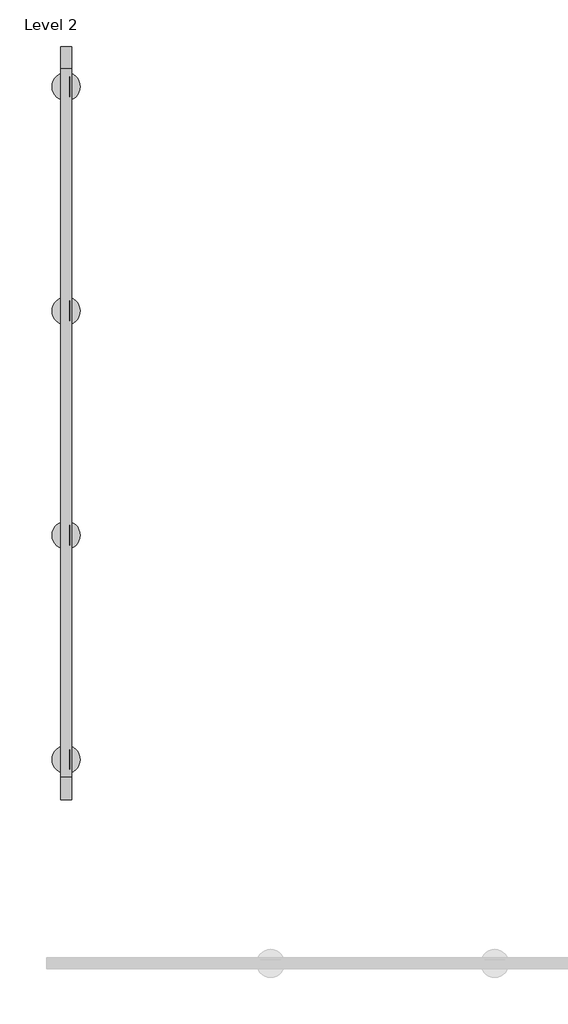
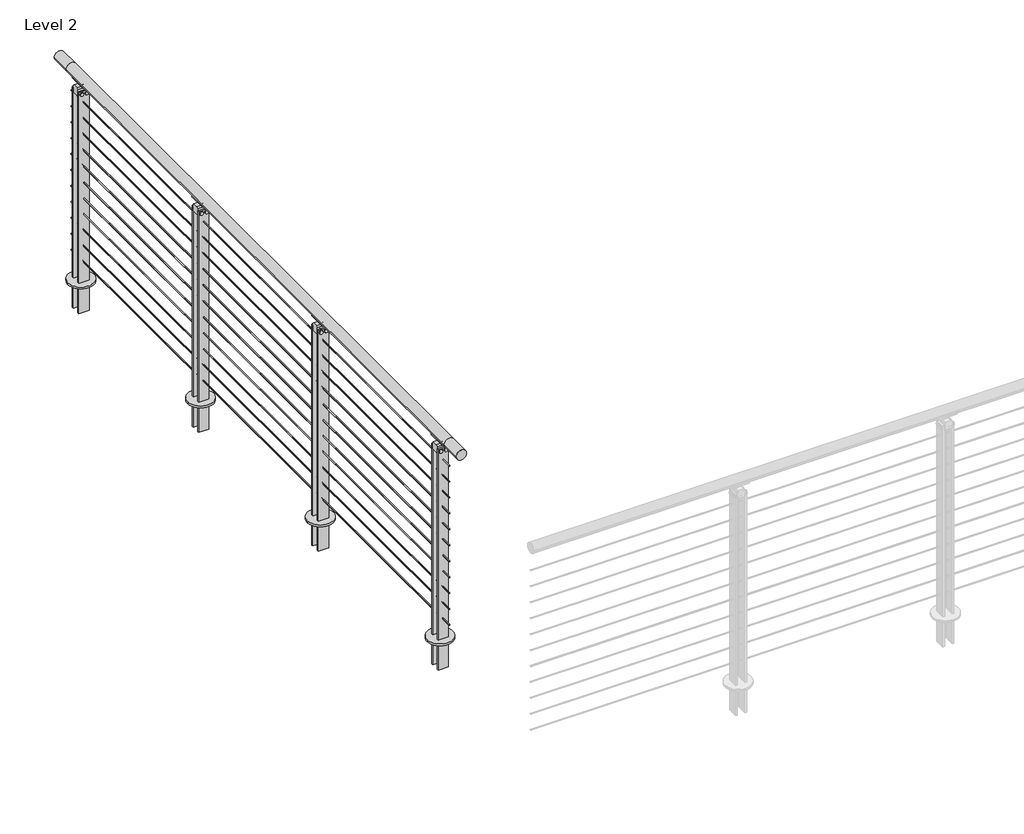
# One storey, part 29 of 31: 1 railing.
"""IFC4 building model written with IfcOpenShell, lengths in millimetres."""

from ifc_helpers import new_model, si_unit, point, frame, frame_2d, origin, place, context, project, spatial, polyline, circle_curve, trimmed, segment, composite_curve, outline, extrude, element, save
from ifc_brep_helpers import plane_surface, cylinder_surface, revolved_surface, advanced_brep

model = new_model("IFC4")

# Units and contexts
model_context = context("Model", 3, world=origin())
ifc_project = project(units=[si_unit("LENGTHUNIT", "METRE", prefix="MILLI")], contexts=[model_context])

# Site, building, storey
site = spatial("IfcSite", under=ifc_project)
building = spatial("IfcBuilding", under=site)
storey = spatial("IfcBuildingStorey", under=building, Name="Level 2", Elevation=3048.0)

# Railing
placement = place(None, origin())
element("IfcRailing", 1, ObjectType="VIVA-BLADE-Cable-Core Mount-Straight", at=placement, inside=storey, context=model_context, shape_type="SolidModel", body=[
    advanced_brep(
    [(65907.3310647, -51362.5040223, 4102.1), (65856.5310647, -51362.5040223, 4102.1), (65907.3310647, -51260.9040223, 4102.1), (65856.5310647, -51260.9040223, 4102.1), (65907.3310647, -48053.4426165, 4102.1), (65856.5310647, -48053.4426165, 4102.1), (65907.3310647, -47951.8426165, 4102.1), (65856.5310647, -47951.8426165, 4102.1)],
    [
        (0, 1, circle_curve(frame((65881.9310647, -51362.5040223, 4102.1), z_axis=(0.0, -1.0, 0.0), x_axis=(-1.0, 0.0, 0.0)), 25.4)),
        (1, 0, circle_curve(frame((65881.9310647, -51362.5040223, 4102.1), z_axis=(0.0, -1.0, 0.0), x_axis=(-1.0, 0.0, 0.0)), 25.4)),
        (0, 2),
        (2, 3, circle_curve(frame((65881.9310647, -51260.9040223, 4102.1), z_axis=(0.0, -1.0, 0.0), x_axis=(-1.0, 0.0, 0.0)), 25.4)),
        (3, 1),
        (3, 2, circle_curve(frame((65881.9310647, -51260.9040223, 4102.1), z_axis=(0.0, -1.0, 0.0), x_axis=(-1.0, 0.0, 0.0)), 25.4)),
        (2, 4),
        (4, 5, circle_curve(frame((65881.9310647, -48053.4426165, 4102.1), z_axis=(0.0, -1.0, 0.0), x_axis=(-1.0, 0.0, 0.0)), 25.4)),
        (5, 3),
        (5, 4, circle_curve(frame((65881.9310647, -48053.4426165, 4102.1), z_axis=(0.0, -1.0, 0.0), x_axis=(-1.0, 0.0, 0.0)), 25.4)),
        (6, 7, circle_curve(frame((65881.9310647, -47951.8426165, 4102.1), z_axis=(0.0, 1.0, 0.0), x_axis=(-1.0, 0.0, 0.0)), 25.4)),
        (7, 6, circle_curve(frame((65881.9310647, -47951.8426165, 4102.1), z_axis=(0.0, 1.0, 0.0), x_axis=(-1.0, 0.0, 0.0)), 25.4)),
        (4, 6),
        (7, 5),
    ],
    [
        plane_surface(frame((65881.9310647, -51362.5040223, 4127.5), z_axis=(0.0, -1.0, 0.0), x_axis=(0.0, 0.0, 1.0))),
        cylinder_surface(frame((65881.9310647, -51362.5040223, 4102.1), z_axis=(0.0, -1.0, 0.0), x_axis=(-1.0, 0.0, 0.0)), 25.4),
        cylinder_surface(frame((65881.9310647, -51260.9040223, 4102.1), z_axis=(0.0, -1.0, 0.0), x_axis=(-1.0, 0.0, 0.0)), 25.4),
        plane_surface(frame((65881.9310647, -47951.8426165, 4127.5), z_axis=(0.0, 1.0, 0.0), x_axis=(0.0, 0.0, 1.0))),
        cylinder_surface(frame((65881.9310647, -48053.4426165, 4102.1), z_axis=(0.0, -1.0, 0.0), x_axis=(-1.0, 0.0, 0.0)), 25.4),
    ],
    [
        (0, [[1, 2]]),
        (1, [[-1, 3, 4, 5]]),
        (1, [[-2, -5, 6, -3]]),
        (2, [[-4, 7, 8, 9]]),
        (2, [[-6, -9, 10, -7]]),
        (3, [[11, 12]]),
        (4, [[-8, 13, -12, 14]]),
        (4, [[-10, -14, -11, -13]]),
    ],
),
    extrude(outline(composite_curve([segment(trimmed(circle_curve(frame_2d((3985.4124, 65881.9310647)), 2.3876), [point((3985.4124, 65884.3186647))], [point((3985.4124, 65879.5434647))], False, "CARTESIAN"), True, "CONTINUOUS"), segment(trimmed(circle_curve(frame_2d((3985.4124, 65881.9310647)), 2.3876), [point((3985.4124, 65879.5434647))], [point((3985.4124, 65884.3186647))], False, "CARTESIAN"), True, "CONTINUOUS")], self_intersect=False)), frame((0.0, -51260.9040223, 0.0), z_axis=(0.0, 1.0, 0.0), x_axis=(0.0, 0.0, 1.0)), (0.0, 0.0, 1.0), 3207.4614057),
    extrude(outline(composite_curve([segment(trimmed(circle_curve(frame_2d((3902.8624, 65881.9310647)), 2.3876), [point((3902.8624, 65884.3186647))], [point((3902.8624, 65879.5434647))], False, "CARTESIAN"), True, "CONTINUOUS"), segment(trimmed(circle_curve(frame_2d((3902.8624, 65881.9310647)), 2.3876), [point((3902.8624, 65879.5434647))], [point((3902.8624, 65884.3186647))], False, "CARTESIAN"), True, "CONTINUOUS")], self_intersect=False)), frame((0.0, -51260.9040223, 0.0), z_axis=(0.0, 1.0, 0.0), x_axis=(0.0, 0.0, 1.0)), (0.0, 0.0, 1.0), 3207.4614057),
    extrude(outline(composite_curve([segment(trimmed(circle_curve(frame_2d((3820.3124, 65881.9310647)), 2.3876), [point((3820.3124, 65884.3186647))], [point((3820.3124, 65879.5434647))], False, "CARTESIAN"), True, "CONTINUOUS"), segment(trimmed(circle_curve(frame_2d((3820.3124, 65881.9310647)), 2.3876), [point((3820.3124, 65879.5434647))], [point((3820.3124, 65884.3186647))], False, "CARTESIAN"), True, "CONTINUOUS")], self_intersect=False)), frame((0.0, -51260.9040223, 0.0), z_axis=(0.0, 1.0, 0.0), x_axis=(0.0, 0.0, 1.0)), (0.0, 0.0, 1.0), 3207.4614057),
    extrude(outline(composite_curve([segment(trimmed(circle_curve(frame_2d((3737.7624, 65881.9310647)), 2.3876), [point((3737.7624, 65884.3186647))], [point((3737.7624, 65879.5434647))], False, "CARTESIAN"), True, "CONTINUOUS"), segment(trimmed(circle_curve(frame_2d((3737.7624, 65881.9310647)), 2.3876), [point((3737.7624, 65879.5434647))], [point((3737.7624, 65884.3186647))], False, "CARTESIAN"), True, "CONTINUOUS")], self_intersect=False)), frame((0.0, -51260.9040223, 0.0), z_axis=(0.0, 1.0, 0.0), x_axis=(0.0, 0.0, 1.0)), (0.0, 0.0, 1.0), 3207.4614057),
    extrude(outline(composite_curve([segment(trimmed(circle_curve(frame_2d((3655.2124, 65881.9310647)), 2.3876), [point((3655.2124, 65884.3186647))], [point((3655.2124, 65879.5434647))], False, "CARTESIAN"), True, "CONTINUOUS"), segment(trimmed(circle_curve(frame_2d((3655.2124, 65881.9310647)), 2.3876), [point((3655.2124, 65879.5434647))], [point((3655.2124, 65884.3186647))], False, "CARTESIAN"), True, "CONTINUOUS")], self_intersect=False)), frame((0.0, -51260.9040223, 0.0), z_axis=(0.0, 1.0, 0.0), x_axis=(0.0, 0.0, 1.0)), (0.0, 0.0, 1.0), 3207.4614057),
    extrude(outline(composite_curve([segment(trimmed(circle_curve(frame_2d((3572.6624, 65881.9310647)), 2.3876), [point((3572.6624, 65884.3186647))], [point((3572.6624, 65879.5434647))], False, "CARTESIAN"), True, "CONTINUOUS"), segment(trimmed(circle_curve(frame_2d((3572.6624, 65881.9310647)), 2.3876), [point((3572.6624, 65879.5434647))], [point((3572.6624, 65884.3186647))], False, "CARTESIAN"), True, "CONTINUOUS")], self_intersect=False)), frame((0.0, -51260.9040223, 0.0), z_axis=(0.0, 1.0, 0.0), x_axis=(0.0, 0.0, 1.0)), (0.0, 0.0, 1.0), 3207.4614057),
    extrude(outline(composite_curve([segment(trimmed(circle_curve(frame_2d((3490.1124, 65881.9310647)), 2.3876), [point((3490.1124, 65884.3186647))], [point((3490.1124, 65879.5434647))], False, "CARTESIAN"), True, "CONTINUOUS"), segment(trimmed(circle_curve(frame_2d((3490.1124, 65881.9310647)), 2.3876), [point((3490.1124, 65879.5434647))], [point((3490.1124, 65884.3186647))], False, "CARTESIAN"), True, "CONTINUOUS")], self_intersect=False)), frame((0.0, -51260.9040223, 0.0), z_axis=(0.0, 1.0, 0.0), x_axis=(0.0, 0.0, 1.0)), (0.0, 0.0, 1.0), 3207.4614057),
    extrude(outline(composite_curve([segment(trimmed(circle_curve(frame_2d((3407.5624, 65881.9310647)), 2.3876), [point((3407.5624, 65884.3186647))], [point((3407.5624, 65879.5434647))], False, "CARTESIAN"), True, "CONTINUOUS"), segment(trimmed(circle_curve(frame_2d((3407.5624, 65881.9310647)), 2.3876), [point((3407.5624, 65879.5434647))], [point((3407.5624, 65884.3186647))], False, "CARTESIAN"), True, "CONTINUOUS")], self_intersect=False)), frame((0.0, -51260.9040223, 0.0), z_axis=(0.0, 1.0, 0.0), x_axis=(0.0, 0.0, 1.0)), (0.0, 0.0, 1.0), 3207.4614057),
    extrude(outline(composite_curve([segment(trimmed(circle_curve(frame_2d((3325.0124, 65881.9310647)), 2.3876), [point((3325.0124, 65884.3186647))], [point((3325.0124, 65879.5434647))], False, "CARTESIAN"), True, "CONTINUOUS"), segment(trimmed(circle_curve(frame_2d((3325.0124, 65881.9310647)), 2.3876), [point((3325.0124, 65879.5434647))], [point((3325.0124, 65884.3186647))], False, "CARTESIAN"), True, "CONTINUOUS")], self_intersect=False)), frame((0.0, -51260.9040223, 0.0), z_axis=(0.0, 1.0, 0.0), x_axis=(0.0, 0.0, 1.0)), (0.0, 0.0, 1.0), 3207.4614057),
    extrude(outline(composite_curve([segment(trimmed(circle_curve(frame_2d((3242.4624, 65881.9310647)), 2.3876), [point((3242.4624, 65884.3186647))], [point((3242.4624, 65879.5434647))], False, "CARTESIAN"), True, "CONTINUOUS"), segment(trimmed(circle_curve(frame_2d((3242.4624, 65881.9310647)), 2.3876), [point((3242.4624, 65879.5434647))], [point((3242.4624, 65884.3186647))], False, "CARTESIAN"), True, "CONTINUOUS")], self_intersect=False)), frame((0.0, -51260.9040223, 0.0), z_axis=(0.0, 1.0, 0.0), x_axis=(0.0, 0.0, 1.0)), (0.0, 0.0, 1.0), 3207.4614057),
    extrude(outline(composite_curve([segment(trimmed(circle_curve(frame_2d((3159.9124, 65881.9310647)), 2.3876), [point((3159.9124, 65884.3186647))], [point((3159.9124, 65879.5434647))], False, "CARTESIAN"), True, "CONTINUOUS"), segment(trimmed(circle_curve(frame_2d((3159.9124, 65881.9310647)), 2.3876), [point((3159.9124, 65879.5434647))], [point((3159.9124, 65884.3186647))], False, "CARTESIAN"), True, "CONTINUOUS")], self_intersect=False)), frame((0.0, -51260.9040223, 0.0), z_axis=(0.0, 1.0, 0.0), x_axis=(0.0, 0.0, 1.0)), (0.0, 0.0, 1.0), 3207.4614057),
    extrude(outline(polyline([(65907.3308614, -48160.2481551), (65856.5285368, -48160.2481551), (65856.5285368, -48152.2233194), (65907.3308614, -48152.2233194), (65907.3308614, -48160.2481551)])), frame((0.0, 0.0, 2901.95), z_axis=(0.0, 0.0, 1.0), x_axis=(1.0, 0.0, 0.0)), (0.0, 0.0, 1.0), 146.05),
    extrude(outline(polyline([(65907.3308614, -48114.1233574), (65856.5285368, -48114.1233574), (65856.5285368, -48106.1223574), (65907.3308614, -48106.1223574), (65907.3308614, -48114.1233574)])), frame((0.0, 0.0, 2901.95), z_axis=(0.0, 0.0, 1.0), x_axis=(1.0, 0.0, 0.0)), (0.0, 0.0, 1.0), 146.05),
    extrude(outline(composite_curve([segment(trimmed(circle_curve(frame_2d((65881.9310647, -48133.1852563)), 63.4988059), [point((65818.4322588, -48133.1852563))], [point((65945.4298707, -48133.1852563))], False, "CARTESIAN"), True, "CONTINUOUS"), segment(trimmed(circle_curve(frame_2d((65881.9310647, -48133.1852563)), 63.4988059), [point((65945.4298707, -48133.1852563))], [point((65818.4322588, -48133.1852563))], False, "CARTESIAN"), True, "CONTINUOUS")], self_intersect=False)), frame((0.0, 0.0, 3048.0), z_axis=(0.0, 0.0, 1.0), x_axis=(1.0, 0.0, 0.0)), (0.0, 0.0, 1.0), 9.525),
    advanced_brep(
    [(65894.6911884, -48087.9359194, 4080.0967655), (65898.5270858, -48087.9359194, 4075.707533), (65867.0101935, -48087.9359194, 4075.1267745), (65869.8191238, -48087.9359194, 4079.9535285), (65894.6911884, -48178.4107194, 4080.0967655), (65869.7321517, -48178.4107194, 4080.0018447), (65866.8964001, -48178.4107194, 4075.1893964), (65898.5270858, -48178.4107194, 4075.707533)],
    [
        (0, 1, circle_curve(frame((65896.238746, -48087.9359194, 4077.5784521), z_axis=(0.0, 1.0, 0.0), x_axis=(1.0, 0.0, 0.0)), 2.9558141)),
        (1, 2, circle_curve(frame((65882.2608486, -48087.9359194, 4102.9742164), z_axis=(0.0, 1.0, 0.0), x_axis=(1.0, 0.0, 0.0)), 31.75)),
        (2, 3, circle_curve(frame((65868.4874986, -48087.9359194, 4077.4993599), z_axis=(0.0, 1.0, 0.0), x_axis=(1.0, 0.0, 0.0)), 2.7949225)),
        (3, 0, circle_curve(frame((65882.1273855, -48087.9359194, 4102.2115898), z_axis=(0.0, -1.0, 0.0), x_axis=(1.0, 0.0, 0.0)), 25.4345159)),
        (4, 5, circle_curve(frame((65882.1273855, -48178.4107194, 4102.2115898), z_axis=(0.0, 1.0, 0.0), x_axis=(1.0, 0.0, 0.0)), 25.4345159)),
        (5, 6, circle_curve(frame((65868.4874986, -48178.4107194, 4077.4993599), z_axis=(0.0, -1.0, 0.0), x_axis=(1.0, 0.0, 0.0)), 2.7949225)),
        (6, 7, circle_curve(frame((65882.2608486, -48178.4107194, 4102.9742164), z_axis=(0.0, -1.0, 0.0), x_axis=(1.0, 0.0, 0.0)), 31.75)),
        (7, 4, circle_curve(frame((65896.238746, -48178.4107194, 4077.5784521), z_axis=(0.0, -1.0, 0.0), x_axis=(1.0, 0.0, 0.0)), 2.9558141)),
        (3, 5),
        (4, 0),
        (2, 6),
        (1, 7),
    ],
    [
        plane_surface(frame((65907.5619013, -48087.9359194, 4102.2115898), z_axis=(0.0, 1.0, 0.0), x_axis=(0.0, 0.0, -1.0))),
        plane_surface(frame((65907.5619013, -48178.4107194, 4102.2115898), z_axis=(0.0, -1.0, 0.0), x_axis=(0.0, 0.0, 1.0))),
        revolved_surface(polyline([(65907.5619014, -48178.4107194, 4102.2115898), (65907.5619014, -48087.9359194, 4102.2115898)]), (65882.1273855, -48178.4107194, 4102.2115898), (0.0, -1.0, 0.0)),
        cylinder_surface(frame((65868.4874986, -48178.4107194, 4077.4993599), z_axis=(0.0, 1.0, 0.0), x_axis=(1.0, 0.0, 0.0)), 2.7949225),
        cylinder_surface(frame((65882.2608486, -48178.4107194, 4102.9742164), z_axis=(0.0, 1.0, 0.0), x_axis=(1.0, 0.0, 0.0)), 31.75),
        cylinder_surface(frame((65896.238746, -48178.4107194, 4077.5784521), z_axis=(0.0, 1.0, 0.0), x_axis=(1.0, 0.0, 0.0)), 2.9558141),
    ],
    [
        (0, [[1, 2, 3, 4]]),
        (1, [[5, 6, 7, 8]]),
        (2, [[9, -5, 10, -4]]),
        (3, [[11, -6, -9, -3]]),
        (4, [[12, -7, -11, -2]]),
        (5, [[-10, -8, -12, -1]]),
    ],
),
    extrude(outline(composite_curve([segment(polyline([(-48120.4733194, 4062.4125), (-48145.8733194, 4062.4125)]), True, "CONTINUOUS"), segment(trimmed(circle_curve(frame_2d((-48160.2412343, 4062.4125)), 14.3679149), [point((-48145.8733194, 4062.4125))], [point((-48160.2412343, 4076.7804149))], True, "CARTESIAN"), True, "CONTINUOUS"), segment(polyline([(-48160.2412343, 4076.7804149), (-48106.1054045, 4076.7804149)]), True, "CONTINUOUS"), segment(trimmed(circle_curve(frame_2d((-48106.1054045, 4062.4125)), 14.3679149), [point((-48106.1054045, 4076.7804149))], [point((-48120.4733194, 4062.4125))], True, "CARTESIAN"), True, "CONTINUOUS")], self_intersect=False)), frame((65879.3910647, 0.0, 0.0), z_axis=(1.0, 0.0, 0.0), x_axis=(0.0, 1.0, 0.0)), (0.0, 0.0, 1.0), 5.08),
    extrude(outline(polyline([(65907.3308614, -48160.2481551), (65856.5285368, -48160.2481551), (65856.5285368, -48152.2233194), (65907.3308614, -48152.2233194), (65907.3308614, -48160.2481551)])), frame((0.0, 0.0, 3048.0), z_axis=(0.0, 0.0, 1.0), x_axis=(1.0, 0.0, 0.0)), (0.0, 0.0, 1.0), 996.95),
    extrude(outline(composite_curve([segment(trimmed(circle_curve(frame_2d((4034.0416929, 65869.2285878)), 8.89), [point((4034.0416929, 65860.3385878))], [point((4034.0416929, 65878.1185878))], False, "CARTESIAN"), True, "CONTINUOUS"), segment(trimmed(circle_curve(frame_2d((4034.0416929, 65869.2285878)), 8.89), [point((4034.0416929, 65878.1185878))], [point((4034.0416929, 65860.3385878))], False, "CARTESIAN"), True, "CONTINUOUS")], self_intersect=False)), frame((0.0, -48164.9233194, 0.0), z_axis=(0.0, 1.0, 0.0), x_axis=(0.0, 0.0, 1.0)), (0.0, 0.0, 1.0), 63.4880631),
    extrude(outline(composite_curve([segment(trimmed(circle_curve(frame_2d((4034.0416929, 65894.6284858)), 8.89), [point((4034.0416929, 65885.7384858))], [point((4034.0416929, 65903.5184858))], False, "CARTESIAN"), True, "CONTINUOUS"), segment(trimmed(circle_curve(frame_2d((4034.0416929, 65894.6284858)), 8.89), [point((4034.0416929, 65903.5184858))], [point((4034.0416929, 65885.7384858))], False, "CARTESIAN"), True, "CONTINUOUS")], self_intersect=False)), frame((0.0, -48164.9233194, 0.0), z_axis=(0.0, 1.0, 0.0), x_axis=(0.0, 0.0, 1.0)), (0.0, 0.0, 1.0), 63.4880631),
    extrude(outline(polyline([(-48152.2233194, 4022.7123), (-48152.2233194, 4056.0625), (-48145.8733194, 4062.4125), (-48120.4733194, 4062.4125), (-48114.1233194, 4056.0625), (-48114.1233194, 4022.7123), (-48152.2233194, 4022.7123)])), frame((65856.5285368, 0.0, 0.0), z_axis=(1.0, 0.0, 0.0), x_axis=(0.0, 1.0, 0.0)), (0.0, 0.0, 1.0), 50.8025279),
    extrude(outline(polyline([(65907.3308614, -48114.1233574), (65856.5285368, -48114.1233574), (65856.5285368, -48106.1223574), (65907.3308614, -48106.1223574), (65907.3308614, -48114.1233574)])), frame((0.0, 0.0, 3048.0), z_axis=(0.0, 0.0, 1.0), x_axis=(1.0, 0.0, 0.0)), (0.0, 0.0, 1.0), 996.95),
    extrude(outline(polyline([(65907.3308614, -49176.2481551), (65856.5285368, -49176.2481551), (65856.5285368, -49168.2233194), (65907.3308614, -49168.2233194), (65907.3308614, -49176.2481551)])), frame((0.0, 0.0, 2901.95), z_axis=(0.0, 0.0, 1.0), x_axis=(1.0, 0.0, 0.0)), (0.0, 0.0, 1.0), 146.05),
    extrude(outline(polyline([(65907.3308614, -49130.1233574), (65856.5285368, -49130.1233574), (65856.5285368, -49122.1223574), (65907.3308614, -49122.1223574), (65907.3308614, -49130.1233574)])), frame((0.0, 0.0, 2901.95), z_axis=(0.0, 0.0, 1.0), x_axis=(1.0, 0.0, 0.0)), (0.0, 0.0, 1.0), 146.05),
    extrude(outline(composite_curve([segment(trimmed(circle_curve(frame_2d((65881.9310647, -49149.1852563)), 63.4988059), [point((65818.4322588, -49149.1852563))], [point((65945.4298707, -49149.1852563))], False, "CARTESIAN"), True, "CONTINUOUS"), segment(trimmed(circle_curve(frame_2d((65881.9310647, -49149.1852563)), 63.4988059), [point((65945.4298707, -49149.1852563))], [point((65818.4322588, -49149.1852563))], False, "CARTESIAN"), True, "CONTINUOUS")], self_intersect=False)), frame((0.0, 0.0, 3048.0), z_axis=(0.0, 0.0, 1.0), x_axis=(1.0, 0.0, 0.0)), (0.0, 0.0, 1.0), 9.525),
    advanced_brep(
    [(65894.6911884, -49103.9359194, 4080.0967655), (65898.5270858, -49103.9359194, 4075.707533), (65867.0101935, -49103.9359194, 4075.1267745), (65869.8191238, -49103.9359194, 4079.9535285), (65894.6911884, -49194.4107194, 4080.0967655), (65869.7321517, -49194.4107194, 4080.0018447), (65866.8964001, -49194.4107194, 4075.1893964), (65898.5270858, -49194.4107194, 4075.707533)],
    [
        (0, 1, circle_curve(frame((65896.238746, -49103.9359194, 4077.5784521), z_axis=(0.0, 1.0, 0.0), x_axis=(1.0, 0.0, 0.0)), 2.9558141)),
        (1, 2, circle_curve(frame((65882.2608486, -49103.9359194, 4102.9742164), z_axis=(0.0, 1.0, 0.0), x_axis=(1.0, 0.0, 0.0)), 31.75)),
        (2, 3, circle_curve(frame((65868.4874986, -49103.9359194, 4077.4993599), z_axis=(0.0, 1.0, 0.0), x_axis=(1.0, 0.0, 0.0)), 2.7949225)),
        (3, 0, circle_curve(frame((65882.1273855, -49103.9359194, 4102.2115898), z_axis=(0.0, -1.0, 0.0), x_axis=(1.0, 0.0, 0.0)), 25.4345159)),
        (4, 5, circle_curve(frame((65882.1273855, -49194.4107194, 4102.2115898), z_axis=(0.0, 1.0, 0.0), x_axis=(1.0, 0.0, 0.0)), 25.4345159)),
        (5, 6, circle_curve(frame((65868.4874986, -49194.4107194, 4077.4993599), z_axis=(0.0, -1.0, 0.0), x_axis=(1.0, 0.0, 0.0)), 2.7949225)),
        (6, 7, circle_curve(frame((65882.2608486, -49194.4107194, 4102.9742164), z_axis=(0.0, -1.0, 0.0), x_axis=(1.0, 0.0, 0.0)), 31.75)),
        (7, 4, circle_curve(frame((65896.238746, -49194.4107194, 4077.5784521), z_axis=(0.0, -1.0, 0.0), x_axis=(1.0, 0.0, 0.0)), 2.9558141)),
        (3, 5),
        (4, 0),
        (2, 6),
        (1, 7),
    ],
    [
        plane_surface(frame((65907.5619013, -49103.9359194, 4102.2115898), z_axis=(0.0, 1.0, 0.0), x_axis=(0.0, 0.0, -1.0))),
        plane_surface(frame((65907.5619013, -49194.4107194, 4102.2115898), z_axis=(0.0, -1.0, 0.0), x_axis=(0.0, 0.0, 1.0))),
        revolved_surface(polyline([(65907.5619014, -49194.4107194, 4102.2115898), (65907.5619014, -49103.9359194, 4102.2115898)]), (65882.1273855, -49194.4107194, 4102.2115898), (0.0, -1.0, 0.0)),
        cylinder_surface(frame((65868.4874986, -49194.4107194, 4077.4993599), z_axis=(0.0, 1.0, 0.0), x_axis=(1.0, 0.0, 0.0)), 2.7949225),
        cylinder_surface(frame((65882.2608486, -49194.4107194, 4102.9742164), z_axis=(0.0, 1.0, 0.0), x_axis=(1.0, 0.0, 0.0)), 31.75),
        cylinder_surface(frame((65896.238746, -49194.4107194, 4077.5784521), z_axis=(0.0, 1.0, 0.0), x_axis=(1.0, 0.0, 0.0)), 2.9558141),
    ],
    [
        (0, [[1, 2, 3, 4]]),
        (1, [[5, 6, 7, 8]]),
        (2, [[9, -5, 10, -4]]),
        (3, [[11, -6, -9, -3]]),
        (4, [[12, -7, -11, -2]]),
        (5, [[-10, -8, -12, -1]]),
    ],
),
    extrude(outline(composite_curve([segment(polyline([(-49136.4733194, 4062.4125), (-49161.8733194, 4062.4125)]), True, "CONTINUOUS"), segment(trimmed(circle_curve(frame_2d((-49176.2412343, 4062.4125)), 14.3679149), [point((-49161.8733194, 4062.4125))], [point((-49176.2412343, 4076.7804149))], True, "CARTESIAN"), True, "CONTINUOUS"), segment(polyline([(-49176.2412343, 4076.7804149), (-49122.1054045, 4076.7804149)]), True, "CONTINUOUS"), segment(trimmed(circle_curve(frame_2d((-49122.1054045, 4062.4125)), 14.3679149), [point((-49122.1054045, 4076.7804149))], [point((-49136.4733194, 4062.4125))], True, "CARTESIAN"), True, "CONTINUOUS")], self_intersect=False)), frame((65879.3910647, 0.0, 0.0), z_axis=(1.0, 0.0, 0.0), x_axis=(0.0, 1.0, 0.0)), (0.0, 0.0, 1.0), 5.08),
    extrude(outline(polyline([(65907.3308614, -49176.2481551), (65856.5285368, -49176.2481551), (65856.5285368, -49168.2233194), (65907.3308614, -49168.2233194), (65907.3308614, -49176.2481551)])), frame((0.0, 0.0, 3048.0), z_axis=(0.0, 0.0, 1.0), x_axis=(1.0, 0.0, 0.0)), (0.0, 0.0, 1.0), 996.95),
    extrude(outline(composite_curve([segment(trimmed(circle_curve(frame_2d((4034.0416929, 65869.2285878)), 8.89), [point((4034.0416929, 65860.3385878))], [point((4034.0416929, 65878.1185878))], False, "CARTESIAN"), True, "CONTINUOUS"), segment(trimmed(circle_curve(frame_2d((4034.0416929, 65869.2285878)), 8.89), [point((4034.0416929, 65878.1185878))], [point((4034.0416929, 65860.3385878))], False, "CARTESIAN"), True, "CONTINUOUS")], self_intersect=False)), frame((0.0, -49180.9233194, 0.0), z_axis=(0.0, 1.0, 0.0), x_axis=(0.0, 0.0, 1.0)), (0.0, 0.0, 1.0), 63.4880631),
    extrude(outline(composite_curve([segment(trimmed(circle_curve(frame_2d((4034.0416929, 65894.6284858)), 8.89), [point((4034.0416929, 65885.7384858))], [point((4034.0416929, 65903.5184858))], False, "CARTESIAN"), True, "CONTINUOUS"), segment(trimmed(circle_curve(frame_2d((4034.0416929, 65894.6284858)), 8.89), [point((4034.0416929, 65903.5184858))], [point((4034.0416929, 65885.7384858))], False, "CARTESIAN"), True, "CONTINUOUS")], self_intersect=False)), frame((0.0, -49180.9233194, 0.0), z_axis=(0.0, 1.0, 0.0), x_axis=(0.0, 0.0, 1.0)), (0.0, 0.0, 1.0), 63.4880631),
    extrude(outline(polyline([(-49168.2233194, 4022.7123), (-49168.2233194, 4056.0625), (-49161.8733194, 4062.4125), (-49136.4733194, 4062.4125), (-49130.1233194, 4056.0625), (-49130.1233194, 4022.7123), (-49168.2233194, 4022.7123)])), frame((65856.5285368, 0.0, 0.0), z_axis=(1.0, 0.0, 0.0), x_axis=(0.0, 1.0, 0.0)), (0.0, 0.0, 1.0), 50.8025279),
    extrude(outline(polyline([(65907.3308614, -49130.1233574), (65856.5285368, -49130.1233574), (65856.5285368, -49122.1223574), (65907.3308614, -49122.1223574), (65907.3308614, -49130.1233574)])), frame((0.0, 0.0, 3048.0), z_axis=(0.0, 0.0, 1.0), x_axis=(1.0, 0.0, 0.0)), (0.0, 0.0, 1.0), 996.95),
    extrude(outline(polyline([(65907.3308614, -50192.2481551), (65856.5285368, -50192.2481551), (65856.5285368, -50184.2233194), (65907.3308614, -50184.2233194), (65907.3308614, -50192.2481551)])), frame((0.0, 0.0, 2901.95), z_axis=(0.0, 0.0, 1.0), x_axis=(1.0, 0.0, 0.0)), (0.0, 0.0, 1.0), 146.05),
    extrude(outline(polyline([(65907.3308614, -50146.1233574), (65856.5285368, -50146.1233574), (65856.5285368, -50138.1223574), (65907.3308614, -50138.1223574), (65907.3308614, -50146.1233574)])), frame((0.0, 0.0, 2901.95), z_axis=(0.0, 0.0, 1.0), x_axis=(1.0, 0.0, 0.0)), (0.0, 0.0, 1.0), 146.05),
    extrude(outline(composite_curve([segment(trimmed(circle_curve(frame_2d((65881.9310647, -50165.1852563)), 63.4988059), [point((65818.4322588, -50165.1852563))], [point((65945.4298707, -50165.1852563))], False, "CARTESIAN"), True, "CONTINUOUS"), segment(trimmed(circle_curve(frame_2d((65881.9310647, -50165.1852563)), 63.4988059), [point((65945.4298707, -50165.1852563))], [point((65818.4322588, -50165.1852563))], False, "CARTESIAN"), True, "CONTINUOUS")], self_intersect=False)), frame((0.0, 0.0, 3048.0), z_axis=(0.0, 0.0, 1.0), x_axis=(1.0, 0.0, 0.0)), (0.0, 0.0, 1.0), 9.525),
    advanced_brep(
    [(65894.6911884, -50119.9359194, 4080.0967655), (65898.5270858, -50119.9359194, 4075.707533), (65867.0101935, -50119.9359194, 4075.1267745), (65869.8191238, -50119.9359194, 4079.9535285), (65894.6911884, -50210.4107194, 4080.0967655), (65869.7321517, -50210.4107194, 4080.0018447), (65866.8964001, -50210.4107194, 4075.1893964), (65898.5270858, -50210.4107194, 4075.707533)],
    [
        (0, 1, circle_curve(frame((65896.238746, -50119.9359194, 4077.5784521), z_axis=(0.0, 1.0, 0.0), x_axis=(1.0, 0.0, 0.0)), 2.9558141)),
        (1, 2, circle_curve(frame((65882.2608486, -50119.9359194, 4102.9742164), z_axis=(0.0, 1.0, 0.0), x_axis=(1.0, 0.0, 0.0)), 31.75)),
        (2, 3, circle_curve(frame((65868.4874986, -50119.9359194, 4077.4993599), z_axis=(0.0, 1.0, 0.0), x_axis=(1.0, 0.0, 0.0)), 2.7949225)),
        (3, 0, circle_curve(frame((65882.1273855, -50119.9359194, 4102.2115898), z_axis=(0.0, -1.0, 0.0), x_axis=(1.0, 0.0, 0.0)), 25.4345159)),
        (4, 5, circle_curve(frame((65882.1273855, -50210.4107194, 4102.2115898), z_axis=(0.0, 1.0, 0.0), x_axis=(1.0, 0.0, 0.0)), 25.4345159)),
        (5, 6, circle_curve(frame((65868.4874986, -50210.4107194, 4077.4993599), z_axis=(0.0, -1.0, 0.0), x_axis=(1.0, 0.0, 0.0)), 2.7949225)),
        (6, 7, circle_curve(frame((65882.2608486, -50210.4107194, 4102.9742164), z_axis=(0.0, -1.0, 0.0), x_axis=(1.0, 0.0, 0.0)), 31.75)),
        (7, 4, circle_curve(frame((65896.238746, -50210.4107194, 4077.5784521), z_axis=(0.0, -1.0, 0.0), x_axis=(1.0, 0.0, 0.0)), 2.9558141)),
        (3, 5),
        (4, 0),
        (2, 6),
        (1, 7),
    ],
    [
        plane_surface(frame((65907.5619013, -50119.9359194, 4102.2115898), z_axis=(0.0, 1.0, 0.0), x_axis=(0.0, 0.0, -1.0))),
        plane_surface(frame((65907.5619013, -50210.4107194, 4102.2115898), z_axis=(0.0, -1.0, 0.0), x_axis=(0.0, 0.0, 1.0))),
        revolved_surface(polyline([(65907.5619014, -50210.4107194, 4102.2115898), (65907.5619014, -50119.9359194, 4102.2115898)]), (65882.1273855, -50210.4107194, 4102.2115898), (0.0, -1.0, 0.0)),
        cylinder_surface(frame((65868.4874986, -50210.4107194, 4077.4993599), z_axis=(0.0, 1.0, 0.0), x_axis=(1.0, 0.0, 0.0)), 2.7949225),
        cylinder_surface(frame((65882.2608486, -50210.4107194, 4102.9742164), z_axis=(0.0, 1.0, 0.0), x_axis=(1.0, 0.0, 0.0)), 31.75),
        cylinder_surface(frame((65896.238746, -50210.4107194, 4077.5784521), z_axis=(0.0, 1.0, 0.0), x_axis=(1.0, 0.0, 0.0)), 2.9558141),
    ],
    [
        (0, [[1, 2, 3, 4]]),
        (1, [[5, 6, 7, 8]]),
        (2, [[9, -5, 10, -4]]),
        (3, [[11, -6, -9, -3]]),
        (4, [[12, -7, -11, -2]]),
        (5, [[-10, -8, -12, -1]]),
    ],
),
    extrude(outline(composite_curve([segment(polyline([(-50152.4733194, 4062.4125), (-50177.8733194, 4062.4125)]), True, "CONTINUOUS"), segment(trimmed(circle_curve(frame_2d((-50192.2412343, 4062.4125)), 14.3679149), [point((-50177.8733194, 4062.4125))], [point((-50192.2412343, 4076.7804149))], True, "CARTESIAN"), True, "CONTINUOUS"), segment(polyline([(-50192.2412343, 4076.7804149), (-50138.1054045, 4076.7804149)]), True, "CONTINUOUS"), segment(trimmed(circle_curve(frame_2d((-50138.1054045, 4062.4125)), 14.3679149), [point((-50138.1054045, 4076.7804149))], [point((-50152.4733194, 4062.4125))], True, "CARTESIAN"), True, "CONTINUOUS")], self_intersect=False)), frame((65879.3910647, 0.0, 0.0), z_axis=(1.0, 0.0, 0.0), x_axis=(0.0, 1.0, 0.0)), (0.0, 0.0, 1.0), 5.08),
    extrude(outline(polyline([(65907.3308614, -50192.2481551), (65856.5285368, -50192.2481551), (65856.5285368, -50184.2233194), (65907.3308614, -50184.2233194), (65907.3308614, -50192.2481551)])), frame((0.0, 0.0, 3048.0), z_axis=(0.0, 0.0, 1.0), x_axis=(1.0, 0.0, 0.0)), (0.0, 0.0, 1.0), 996.95),
    extrude(outline(composite_curve([segment(trimmed(circle_curve(frame_2d((4034.0416929, 65869.2285878)), 8.89), [point((4034.0416929, 65860.3385878))], [point((4034.0416929, 65878.1185878))], False, "CARTESIAN"), True, "CONTINUOUS"), segment(trimmed(circle_curve(frame_2d((4034.0416929, 65869.2285878)), 8.89), [point((4034.0416929, 65878.1185878))], [point((4034.0416929, 65860.3385878))], False, "CARTESIAN"), True, "CONTINUOUS")], self_intersect=False)), frame((0.0, -50196.9233194, 0.0), z_axis=(0.0, 1.0, 0.0), x_axis=(0.0, 0.0, 1.0)), (0.0, 0.0, 1.0), 63.4880631),
    extrude(outline(composite_curve([segment(trimmed(circle_curve(frame_2d((4034.0416929, 65894.6284858)), 8.89), [point((4034.0416929, 65885.7384858))], [point((4034.0416929, 65903.5184858))], False, "CARTESIAN"), True, "CONTINUOUS"), segment(trimmed(circle_curve(frame_2d((4034.0416929, 65894.6284858)), 8.89), [point((4034.0416929, 65903.5184858))], [point((4034.0416929, 65885.7384858))], False, "CARTESIAN"), True, "CONTINUOUS")], self_intersect=False)), frame((0.0, -50196.9233194, 0.0), z_axis=(0.0, 1.0, 0.0), x_axis=(0.0, 0.0, 1.0)), (0.0, 0.0, 1.0), 63.4880631),
    extrude(outline(polyline([(-50184.2233194, 4022.7123), (-50184.2233194, 4056.0625), (-50177.8733194, 4062.4125), (-50152.4733194, 4062.4125), (-50146.1233194, 4056.0625), (-50146.1233194, 4022.7123), (-50184.2233194, 4022.7123)])), frame((65856.5285368, 0.0, 0.0), z_axis=(1.0, 0.0, 0.0), x_axis=(0.0, 1.0, 0.0)), (0.0, 0.0, 1.0), 50.8025279),
    extrude(outline(polyline([(65907.3308614, -50146.1233574), (65856.5285368, -50146.1233574), (65856.5285368, -50138.1223574), (65907.3308614, -50138.1223574), (65907.3308614, -50146.1233574)])), frame((0.0, 0.0, 3048.0), z_axis=(0.0, 0.0, 1.0), x_axis=(1.0, 0.0, 0.0)), (0.0, 0.0, 1.0), 996.95),
    extrude(outline(polyline([(65907.3308614, -51208.2481551), (65856.5285368, -51208.2481551), (65856.5285368, -51200.2233194), (65907.3308614, -51200.2233194), (65907.3308614, -51208.2481551)])), frame((0.0, 0.0, 2901.95), z_axis=(0.0, 0.0, 1.0), x_axis=(1.0, 0.0, 0.0)), (0.0, 0.0, 1.0), 146.05),
    extrude(outline(polyline([(65907.3308614, -51162.1233574), (65856.5285368, -51162.1233574), (65856.5285368, -51154.1223574), (65907.3308614, -51154.1223574), (65907.3308614, -51162.1233574)])), frame((0.0, 0.0, 2901.95), z_axis=(0.0, 0.0, 1.0), x_axis=(1.0, 0.0, 0.0)), (0.0, 0.0, 1.0), 146.05),
    extrude(outline(composite_curve([segment(trimmed(circle_curve(frame_2d((65881.9310647, -51181.1852563)), 63.4988059), [point((65818.4322588, -51181.1852563))], [point((65945.4298707, -51181.1852563))], False, "CARTESIAN"), True, "CONTINUOUS"), segment(trimmed(circle_curve(frame_2d((65881.9310647, -51181.1852563)), 63.4988059), [point((65945.4298707, -51181.1852563))], [point((65818.4322588, -51181.1852563))], False, "CARTESIAN"), True, "CONTINUOUS")], self_intersect=False)), frame((0.0, 0.0, 3048.0), z_axis=(0.0, 0.0, 1.0), x_axis=(1.0, 0.0, 0.0)), (0.0, 0.0, 1.0), 9.525),
    advanced_brep(
    [(65894.6911884, -51135.9359194, 4080.0967655), (65898.5270858, -51135.9359194, 4075.707533), (65867.0101935, -51135.9359194, 4075.1267745), (65869.8191238, -51135.9359194, 4079.9535285), (65894.6911884, -51226.4107194, 4080.0967655), (65869.7321517, -51226.4107194, 4080.0018447), (65866.8964001, -51226.4107194, 4075.1893964), (65898.5270858, -51226.4107194, 4075.707533)],
    [
        (0, 1, circle_curve(frame((65896.238746, -51135.9359194, 4077.5784521), z_axis=(0.0, 1.0, 0.0), x_axis=(1.0, 0.0, 0.0)), 2.9558141)),
        (1, 2, circle_curve(frame((65882.2608486, -51135.9359194, 4102.9742164), z_axis=(0.0, 1.0, 0.0), x_axis=(1.0, 0.0, 0.0)), 31.75)),
        (2, 3, circle_curve(frame((65868.4874986, -51135.9359194, 4077.4993599), z_axis=(0.0, 1.0, 0.0), x_axis=(1.0, 0.0, 0.0)), 2.7949225)),
        (3, 0, circle_curve(frame((65882.1273855, -51135.9359194, 4102.2115898), z_axis=(0.0, -1.0, 0.0), x_axis=(1.0, 0.0, 0.0)), 25.4345159)),
        (4, 5, circle_curve(frame((65882.1273855, -51226.4107194, 4102.2115898), z_axis=(0.0, 1.0, 0.0), x_axis=(1.0, 0.0, 0.0)), 25.4345159)),
        (5, 6, circle_curve(frame((65868.4874986, -51226.4107194, 4077.4993599), z_axis=(0.0, -1.0, 0.0), x_axis=(1.0, 0.0, 0.0)), 2.7949225)),
        (6, 7, circle_curve(frame((65882.2608486, -51226.4107194, 4102.9742164), z_axis=(0.0, -1.0, 0.0), x_axis=(1.0, 0.0, 0.0)), 31.75)),
        (7, 4, circle_curve(frame((65896.238746, -51226.4107194, 4077.5784521), z_axis=(0.0, -1.0, 0.0), x_axis=(1.0, 0.0, 0.0)), 2.9558141)),
        (3, 5),
        (4, 0),
        (2, 6),
        (1, 7),
    ],
    [
        plane_surface(frame((65907.5619013, -51135.9359194, 4102.2115898), z_axis=(0.0, 1.0, 0.0), x_axis=(0.0, 0.0, -1.0))),
        plane_surface(frame((65907.5619013, -51226.4107194, 4102.2115898), z_axis=(0.0, -1.0, 0.0), x_axis=(0.0, 0.0, 1.0))),
        revolved_surface(polyline([(65907.5619014, -51226.4107194, 4102.2115898), (65907.5619014, -51135.9359194, 4102.2115898)]), (65882.1273855, -51226.4107194, 4102.2115898), (0.0, -1.0, 0.0)),
        cylinder_surface(frame((65868.4874986, -51226.4107194, 4077.4993599), z_axis=(0.0, 1.0, 0.0), x_axis=(1.0, 0.0, 0.0)), 2.7949225),
        cylinder_surface(frame((65882.2608486, -51226.4107194, 4102.9742164), z_axis=(0.0, 1.0, 0.0), x_axis=(1.0, 0.0, 0.0)), 31.75),
        cylinder_surface(frame((65896.238746, -51226.4107194, 4077.5784521), z_axis=(0.0, 1.0, 0.0), x_axis=(1.0, 0.0, 0.0)), 2.9558141),
    ],
    [
        (0, [[1, 2, 3, 4]]),
        (1, [[5, 6, 7, 8]]),
        (2, [[9, -5, 10, -4]]),
        (3, [[11, -6, -9, -3]]),
        (4, [[12, -7, -11, -2]]),
        (5, [[-10, -8, -12, -1]]),
    ],
),
    extrude(outline(composite_curve([segment(polyline([(-51168.4733194, 4062.4125), (-51193.8733194, 4062.4125)]), True, "CONTINUOUS"), segment(trimmed(circle_curve(frame_2d((-51208.2412343, 4062.4125)), 14.3679149), [point((-51193.8733194, 4062.4125))], [point((-51208.2412343, 4076.7804149))], True, "CARTESIAN"), True, "CONTINUOUS"), segment(polyline([(-51208.2412343, 4076.7804149), (-51154.1054045, 4076.7804149)]), True, "CONTINUOUS"), segment(trimmed(circle_curve(frame_2d((-51154.1054045, 4062.4125)), 14.3679149), [point((-51154.1054045, 4076.7804149))], [point((-51168.4733194, 4062.4125))], True, "CARTESIAN"), True, "CONTINUOUS")], self_intersect=False)), frame((65879.3910647, 0.0, 0.0), z_axis=(1.0, 0.0, 0.0), x_axis=(0.0, 1.0, 0.0)), (0.0, 0.0, 1.0), 5.08),
    extrude(outline(polyline([(65907.3308614, -51208.2481551), (65856.5285368, -51208.2481551), (65856.5285368, -51200.2233194), (65907.3308614, -51200.2233194), (65907.3308614, -51208.2481551)])), frame((0.0, 0.0, 3048.0), z_axis=(0.0, 0.0, 1.0), x_axis=(1.0, 0.0, 0.0)), (0.0, 0.0, 1.0), 996.95),
    extrude(outline(composite_curve([segment(trimmed(circle_curve(frame_2d((4034.0416929, 65869.2285878)), 8.89), [point((4034.0416929, 65860.3385878))], [point((4034.0416929, 65878.1185878))], False, "CARTESIAN"), True, "CONTINUOUS"), segment(trimmed(circle_curve(frame_2d((4034.0416929, 65869.2285878)), 8.89), [point((4034.0416929, 65878.1185878))], [point((4034.0416929, 65860.3385878))], False, "CARTESIAN"), True, "CONTINUOUS")], self_intersect=False)), frame((0.0, -51212.9233194, 0.0), z_axis=(0.0, 1.0, 0.0), x_axis=(0.0, 0.0, 1.0)), (0.0, 0.0, 1.0), 63.4880631),
    extrude(outline(composite_curve([segment(trimmed(circle_curve(frame_2d((4034.0416929, 65894.6284858)), 8.89), [point((4034.0416929, 65885.7384858))], [point((4034.0416929, 65903.5184858))], False, "CARTESIAN"), True, "CONTINUOUS"), segment(trimmed(circle_curve(frame_2d((4034.0416929, 65894.6284858)), 8.89), [point((4034.0416929, 65903.5184858))], [point((4034.0416929, 65885.7384858))], False, "CARTESIAN"), True, "CONTINUOUS")], self_intersect=False)), frame((0.0, -51212.9233194, 0.0), z_axis=(0.0, 1.0, 0.0), x_axis=(0.0, 0.0, 1.0)), (0.0, 0.0, 1.0), 63.4880631),
    extrude(outline(polyline([(-51200.2233194, 4022.7123), (-51200.2233194, 4056.0625), (-51193.8733194, 4062.4125), (-51168.4733194, 4062.4125), (-51162.1233194, 4056.0625), (-51162.1233194, 4022.7123), (-51200.2233194, 4022.7123)])), frame((65856.5285368, 0.0, 0.0), z_axis=(1.0, 0.0, 0.0), x_axis=(0.0, 1.0, 0.0)), (0.0, 0.0, 1.0), 50.8025279),
    extrude(outline(polyline([(65907.3308614, -51162.1233574), (65856.5285368, -51162.1233574), (65856.5285368, -51154.1223574), (65907.3308614, -51154.1223574), (65907.3308614, -51162.1233574)])), frame((0.0, 0.0, 3048.0), z_axis=(0.0, 0.0, 1.0), x_axis=(1.0, 0.0, 0.0)), (0.0, 0.0, 1.0), 996.95),
])

save(model, "model.ifc")
